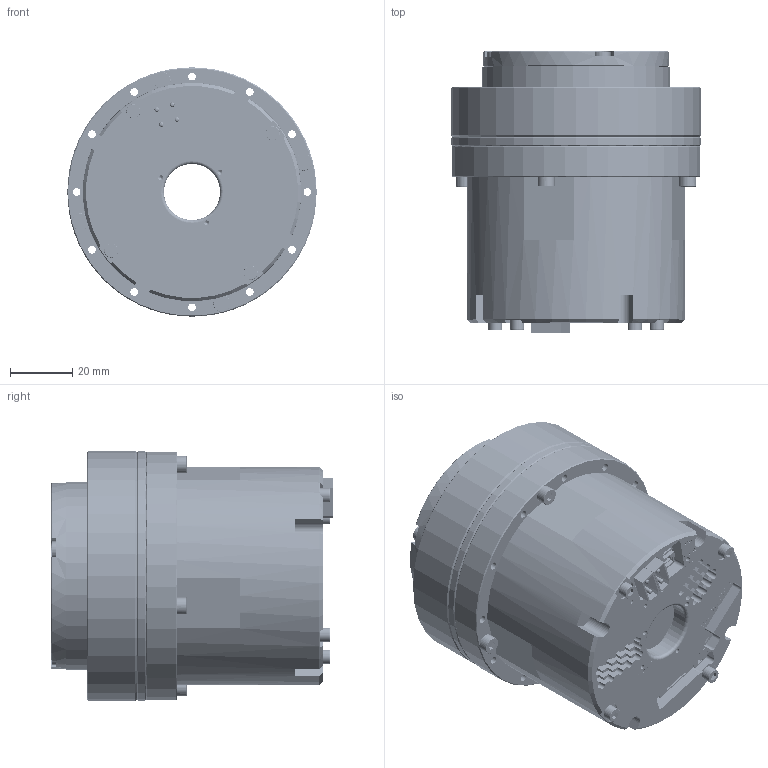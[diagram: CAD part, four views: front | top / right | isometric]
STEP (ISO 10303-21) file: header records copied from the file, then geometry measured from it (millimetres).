
FILE_DESCRIPTION (( 'STEP AP203' ), '1' );
FILE_NAME ('eRob80H｡ﾁ｡ﾁI_V4.STEP', '2022-11-08T07:48:10', ( 'Windows User' ), ( 'P R C' ), 'SwSTEP 2.0', 'SolidWorks 2021', '' );
FILE_SCHEMA (( 'CONFIG_CONTROL_DESIGN' ));
Length unit declared in the file: millimetre
Products named in the file (1): eRob80H℅℅I_V4
Bounding box: 80 x 90.5 x 80 mm (x, y, z)
Volume: 352709.3 mm3; surface area: 75597.8 mm2
Topology: 19 solids, 36 shells, 2933 faces, 7745 edges, 5017 vertices
Faces by surface type: plane 1590, cylinder 914, bspline 232, cone 142, torus 55
Entity records: 125238 total; most frequent: CARTESIAN_POINT 56462, ORIENTED_EDGE 15342, DIRECTION 12781, EDGE_CURVE 7671, VECTOR 5141, LINE 5141, VERTEX_POINT 5017, AXIS2_PLACEMENT_3D 3820
